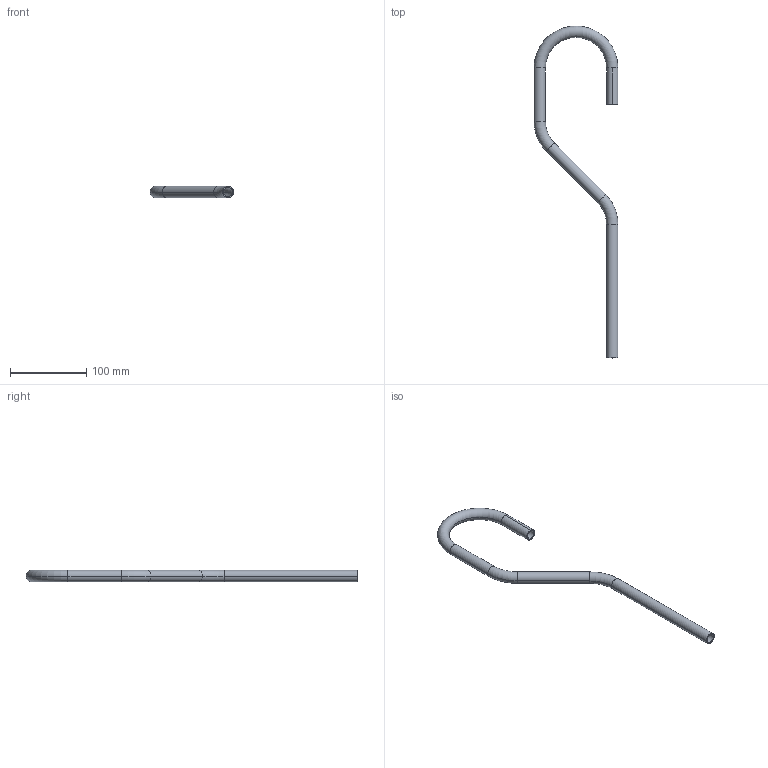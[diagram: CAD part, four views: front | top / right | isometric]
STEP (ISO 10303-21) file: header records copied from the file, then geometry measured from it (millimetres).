
FILE_DESCRIPTION (( 'STEP AP203' ), '1' );
FILE_NAME ('059.015.100.STEP', '2015-06-04T10:27:04', ( '' ), ( '' ), 'SwSTEP 2.0', 'SolidWorks 2012', '' );
FILE_SCHEMA (( 'CONFIG_CONTROL_DESIGN' ));
Length unit declared in the file: millimetre
Products named in the file (1): 059.015.100
Bounding box: 110 x 435 x 15 mm (x, y, z)
Volume: 38930.2 mm3; surface area: 52034.2 mm2
Topology: 1 solids, 1 shells, 30 faces, 64 edges, 36 vertices
Faces by surface type: cylinder 16, torus 12, plane 2
Entity records: 897 total; most frequent: DIRECTION 174, CARTESIAN_POINT 131, ORIENTED_EDGE 128, AXIS2_PLACEMENT_3D 79, EDGE_CURVE 64, CIRCLE 48, VERTEX_POINT 36, EDGE_LOOP 32
